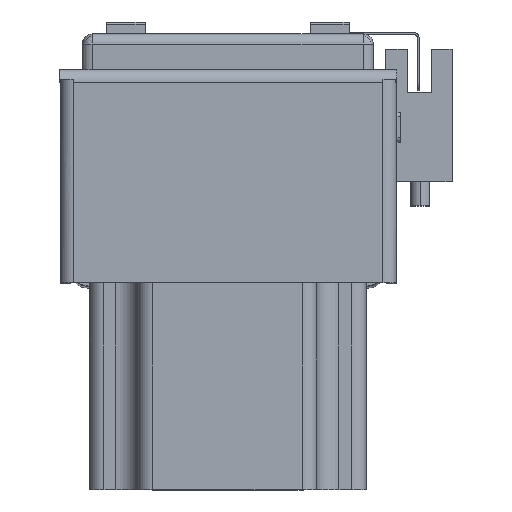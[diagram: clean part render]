
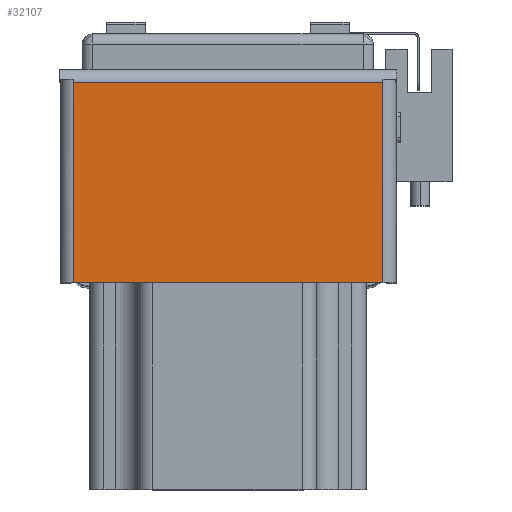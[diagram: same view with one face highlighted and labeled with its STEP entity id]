
A CAD part, top view. The second image highlights one B-rep face of the part: STEP entity #32107.
In plain terms, the highlighted planar face has unit normal (0, 0, 1) as drawn and (1, 0, 0) by its records, which use the part's own axes.
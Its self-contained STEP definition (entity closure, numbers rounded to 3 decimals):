
#1911 = EDGE_LOOP ( 'NONE', ( #33312, #33315, #33276, #33258 ) ) ;
#12065 = LINE ( 'NONE', #13560, #12066 ) ;
#12066 = VECTOR ( 'NONE', #13590, 1000. ) ;
#12085 = VECTOR ( 'NONE', #13565, 1000. ) ;
#12102 = LINE ( 'NONE', #13557, #12085 ) ;
#12140 = LINE ( 'NONE', #13643, #12160 ) ;
#12160 = VECTOR ( 'NONE', #13648, 1000. ) ;
#12164 = LINE ( 'NONE', #13571, #12180 ) ;
#12180 = VECTOR ( 'NONE', #13610, 1000. ) ;
#13557 = CARTESIAN_POINT ( 'NONE',  ( 2., 42., -31.863 ) ) ;
#13560 = CARTESIAN_POINT ( 'NONE',  ( 2., 41.263, -31.863 ) ) ;
#13565 = DIRECTION ( 'NONE',  ( 0., -1., 0. ) ) ;
#13571 = CARTESIAN_POINT ( 'NONE',  ( 2., 0., -32.6 ) ) ;
#13590 = DIRECTION ( 'NONE',  ( 0., 0., 1. ) ) ;
#13610 = DIRECTION ( 'NONE',  ( 0., 0., -1. ) ) ;
#13643 = CARTESIAN_POINT ( 'NONE',  ( 2., 42., 31.863 ) ) ;
#13648 = DIRECTION ( 'NONE',  ( 0., -1., 0. ) ) ;
#20681 = EDGE_CURVE ( 'NONE', #30994, #31012, #12102, .T. ) ;
#20693 = EDGE_CURVE ( 'NONE', #30994, #30995, #12065, .T. ) ;
#20696 = EDGE_CURVE ( 'NONE', #31024, #31012, #12164, .T. ) ;
#20717 = EDGE_CURVE ( 'NONE', #30995, #31024, #12140, .T. ) ;
#24959 = AXIS2_PLACEMENT_3D ( 'NONE', #30602, #30553, #30569 ) ;
#27921 = FACE_OUTER_BOUND ( 'NONE', #1911, .T. ) ;
#29043 = CARTESIAN_POINT ( 'NONE',  ( 2., 0., -31.863 ) ) ;
#29047 = CARTESIAN_POINT ( 'NONE',  ( 2., 41.263, -31.863 ) ) ;
#29048 = CARTESIAN_POINT ( 'NONE',  ( 2., 41.263, 31.863 ) ) ;
#29062 = CARTESIAN_POINT ( 'NONE',  ( 2., 0., 31.863 ) ) ;
#30553 = DIRECTION ( 'NONE',  ( -1., 0., 0. ) ) ;
#30569 = DIRECTION ( 'NONE',  ( 0., 0., 1. ) ) ;
#30597 = PLANE ( 'NONE',  #24959 ) ;
#30602 = CARTESIAN_POINT ( 'NONE',  ( 2., 42., -32.6 ) ) ;
#30994 = VERTEX_POINT ( 'NONE', #29047 ) ;
#30995 = VERTEX_POINT ( 'NONE', #29048 ) ;
#31012 = VERTEX_POINT ( 'NONE', #29043 ) ;
#31024 = VERTEX_POINT ( 'NONE', #29062 ) ;
#32107 = ADVANCED_FACE ( 'NONE', ( #27921 ), #30597, .F. ) ;
#33258 = ORIENTED_EDGE ( 'NONE', *, *, #20681, .F. ) ;
#33276 = ORIENTED_EDGE ( 'NONE', *, *, #20696, .T. ) ;
#33312 = ORIENTED_EDGE ( 'NONE', *, *, #20693, .T. ) ;
#33315 = ORIENTED_EDGE ( 'NONE', *, *, #20717, .T. ) ;
